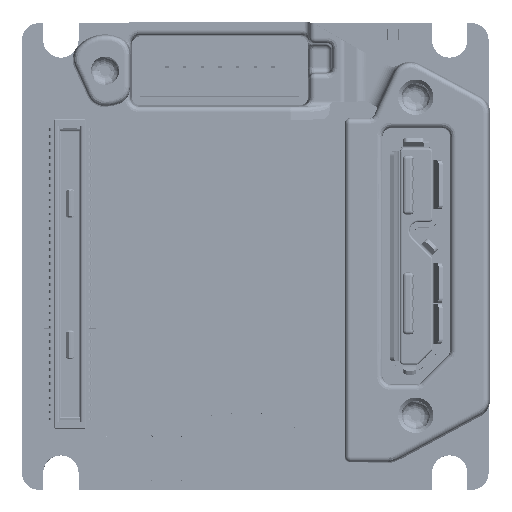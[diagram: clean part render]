
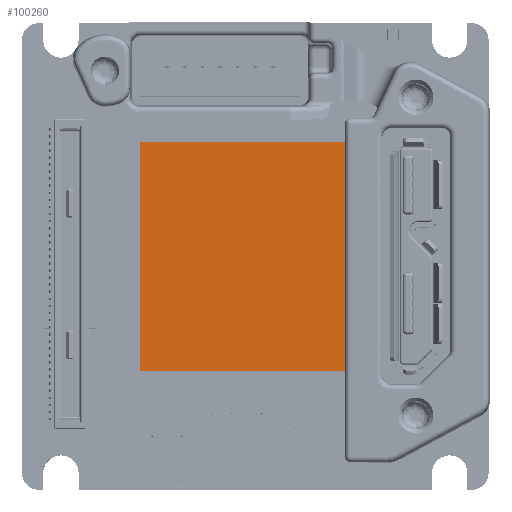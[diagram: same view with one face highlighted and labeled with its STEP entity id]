
A CAD part, top view. The second image highlights one B-rep face of the part: STEP entity #100260.
In plain terms, the highlighted planar face has unit normal (0, 0, 1).
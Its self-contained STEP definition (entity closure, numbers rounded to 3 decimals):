
#972 = VECTOR ( 'NONE', #208177, 1000. ) ;
#2770 = DIRECTION ( 'NONE',  ( 0., 0., -1. ) ) ;
#32288 = LINE ( 'NONE', #286331, #323605 ) ;
#39276 = CARTESIAN_POINT ( 'NONE',  ( 6.5, -6.5, 6.162 ) ) ;
#71006 = VECTOR ( 'NONE', #633253, 1000. ) ;
#78250 = CARTESIAN_POINT ( 'NONE',  ( 6.5, 6.5, 6.162 ) ) ;
#96158 = EDGE_LOOP ( 'NONE', ( #568602, #139917, #333150, #96792 ) ) ;
#96792 = ORIENTED_EDGE ( 'NONE', *, *, #100295, .F. ) ;
#100260 = ADVANCED_FACE ( 'NONE', ( #413910 ), #313468, .F. ) ;
#100295 = EDGE_CURVE ( 'NONE', #285669, #289014, #32288, .T. ) ;
#115187 = VERTEX_POINT ( 'NONE', #39276 ) ;
#121017 = VECTOR ( 'NONE', #569351, 1000. ) ;
#139917 = ORIENTED_EDGE ( 'NONE', *, *, #199710, .F. ) ;
#164536 = LINE ( 'NONE', #522567, #121017 ) ;
#170823 = EDGE_CURVE ( 'NONE', #115187, #285669, #164536, .T. ) ;
#192573 = DIRECTION ( 'NONE',  ( 0., 1., 0. ) ) ;
#199710 = EDGE_CURVE ( 'NONE', #412292, #115187, #536348, .T. ) ;
#208177 = DIRECTION ( 'NONE',  ( 1., 0., 0. ) ) ;
#285669 = VERTEX_POINT ( 'NONE', #423477 ) ;
#286331 = CARTESIAN_POINT ( 'NONE',  ( -6.5, -6.5, 6.162 ) ) ;
#289014 = VERTEX_POINT ( 'NONE', #506500 ) ;
#303162 = AXIS2_PLACEMENT_3D ( 'NONE', #310200, #2770, #517517 ) ;
#310200 = CARTESIAN_POINT ( 'NONE',  ( 0., 0., 6.162 ) ) ;
#313468 = PLANE ( 'NONE',  #303162 ) ;
#323605 = VECTOR ( 'NONE', #192573, 1000. ) ;
#333150 = ORIENTED_EDGE ( 'NONE', *, *, #556604, .F. ) ;
#355511 = LINE ( 'NONE', #449393, #972 ) ;
#412292 = VERTEX_POINT ( 'NONE', #532411 ) ;
#413910 = FACE_OUTER_BOUND ( 'NONE', #96158, .T. ) ;
#423477 = CARTESIAN_POINT ( 'NONE',  ( -6.5, -6.5, 6.162 ) ) ;
#449393 = CARTESIAN_POINT ( 'NONE',  ( -6.5, 6.5, 6.162 ) ) ;
#506500 = CARTESIAN_POINT ( 'NONE',  ( -6.5, 6.5, 6.162 ) ) ;
#517517 = DIRECTION ( 'NONE',  ( 0., -1., 0. ) ) ;
#522567 = CARTESIAN_POINT ( 'NONE',  ( 6.5, -6.5, 6.162 ) ) ;
#532411 = CARTESIAN_POINT ( 'NONE',  ( 6.5, 6.5, 6.162 ) ) ;
#536348 = LINE ( 'NONE', #78250, #71006 ) ;
#556604 = EDGE_CURVE ( 'NONE', #289014, #412292, #355511, .T. ) ;
#568602 = ORIENTED_EDGE ( 'NONE', *, *, #170823, .F. ) ;
#569351 = DIRECTION ( 'NONE',  ( -1., 0., 0. ) ) ;
#633253 = DIRECTION ( 'NONE',  ( 0., -1., 0. ) ) ;
